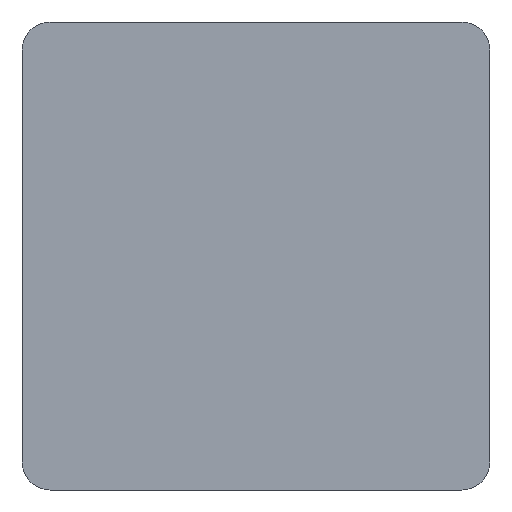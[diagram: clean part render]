
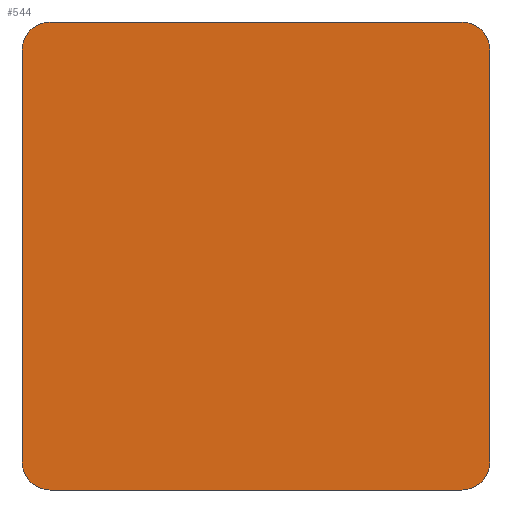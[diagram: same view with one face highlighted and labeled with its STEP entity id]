
A CAD part, front view. The second image highlights one B-rep face of the part: STEP entity #544.
In plain terms, the highlighted planar face has unit normal (0, -1, 0).
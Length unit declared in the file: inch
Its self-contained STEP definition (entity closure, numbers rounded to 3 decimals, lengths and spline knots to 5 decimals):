
#30=PLANE('',#629);
#69=FACE_OUTER_BOUND('',#105,.T.);
#105=EDGE_LOOP('',(#486,#487,#488,#489,#490,#491,#492,#493));
#134=LINE('',#940,#174);
#138=LINE('',#949,#178);
#141=LINE('',#957,#181);
#144=LINE('',#965,#184);
#174=VECTOR('',#778,0.3937);
#178=VECTOR('',#788,0.3937);
#181=VECTOR('',#797,0.3937);
#184=VECTOR('',#806,0.3937);
#218=CIRCLE('',#619,0.06);
#219=CIRCLE('',#622,0.06);
#220=CIRCLE('',#625,0.06);
#221=CIRCLE('',#628,0.06);
#258=VERTEX_POINT('',#938);
#259=VERTEX_POINT('',#939);
#260=VERTEX_POINT('',#944);
#261=VERTEX_POINT('',#948);
#262=VERTEX_POINT('',#952);
#263=VERTEX_POINT('',#956);
#264=VERTEX_POINT('',#960);
#265=VERTEX_POINT('',#964);
#326=EDGE_CURVE('',#258,#259,#134,.T.);
#329=EDGE_CURVE('',#260,#259,#218,.T.);
#331=EDGE_CURVE('',#260,#261,#138,.T.);
#333=EDGE_CURVE('',#262,#261,#219,.T.);
#335=EDGE_CURVE('',#262,#263,#141,.T.);
#337=EDGE_CURVE('',#264,#263,#220,.T.);
#339=EDGE_CURVE('',#264,#265,#144,.T.);
#341=EDGE_CURVE('',#258,#265,#221,.T.);
#486=ORIENTED_EDGE('',*,*,#341,.F.);
#487=ORIENTED_EDGE('',*,*,#326,.T.);
#488=ORIENTED_EDGE('',*,*,#329,.F.);
#489=ORIENTED_EDGE('',*,*,#331,.T.);
#490=ORIENTED_EDGE('',*,*,#333,.F.);
#491=ORIENTED_EDGE('',*,*,#335,.T.);
#492=ORIENTED_EDGE('',*,*,#337,.F.);
#493=ORIENTED_EDGE('',*,*,#339,.T.);
#544=ADVANCED_FACE('',(#69),#30,.F.);
#619=AXIS2_PLACEMENT_3D('',#945,#783,#784);
#622=AXIS2_PLACEMENT_3D('',#953,#792,#793);
#625=AXIS2_PLACEMENT_3D('',#961,#801,#802);
#628=AXIS2_PLACEMENT_3D('',#968,#810,#811);
#629=AXIS2_PLACEMENT_3D('',#969,#812,#813);
#778=DIRECTION('',(-1.,0.,0.));
#783=DIRECTION('center_axis',(0.,1.,0.));
#784=DIRECTION('ref_axis',(1.,0.,0.));
#788=DIRECTION('',(0.,0.,-1.));
#792=DIRECTION('center_axis',(0.,1.,0.));
#793=DIRECTION('ref_axis',(1.,0.,0.));
#797=DIRECTION('',(1.,0.,0.));
#801=DIRECTION('center_axis',(0.,1.,0.));
#802=DIRECTION('ref_axis',(1.,0.,0.));
#806=DIRECTION('',(0.,0.,1.));
#810=DIRECTION('center_axis',(0.,1.,0.));
#811=DIRECTION('ref_axis',(1.,0.,0.));
#812=DIRECTION('center_axis',(0.,1.,0.));
#813=DIRECTION('ref_axis',(1.,0.,0.));
#938=CARTESIAN_POINT('',(0.44,0.,0.5));
#939=CARTESIAN_POINT('',(-0.44,0.,0.5));
#940=CARTESIAN_POINT('',(0.44,0.,0.5));
#944=CARTESIAN_POINT('',(-0.5,0.,0.44));
#945=CARTESIAN_POINT('Origin',(-0.44,0.,0.44));
#948=CARTESIAN_POINT('',(-0.5,0.,-0.44));
#949=CARTESIAN_POINT('',(-0.5,0.,0.44));
#952=CARTESIAN_POINT('',(-0.44,0.,-0.5));
#953=CARTESIAN_POINT('Origin',(-0.44,0.,-0.44));
#956=CARTESIAN_POINT('',(0.44,0.,-0.5));
#957=CARTESIAN_POINT('',(-0.44,0.,-0.5));
#960=CARTESIAN_POINT('',(0.5,0.,-0.44));
#961=CARTESIAN_POINT('Origin',(0.44,0.,-0.44));
#964=CARTESIAN_POINT('',(0.5,0.,0.44));
#965=CARTESIAN_POINT('',(0.5,0.,-0.44));
#968=CARTESIAN_POINT('Origin',(0.44,0.,0.44));
#969=CARTESIAN_POINT('Origin',(0.,0.,0.));
